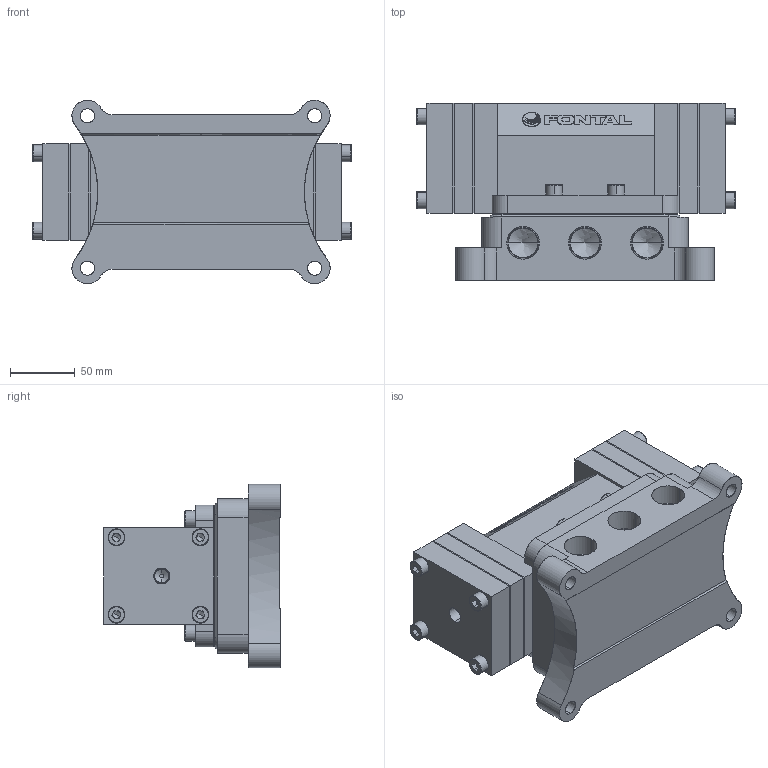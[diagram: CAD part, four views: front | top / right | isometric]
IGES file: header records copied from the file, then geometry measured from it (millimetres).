
Start section: SolidWorks IGES file using analytic representation for surfaces
Global section: file name: D:\Custom\3D繪製\VM\VM25\VMD3425-06.IGS,1; native system: 5HSolidWorks 2014; preprocessor: SolidWorks 2014; author: Chieh_Lu; date: 160114.023603; units: millimetre
Bounding box: 247 x 137 x 142 mm (x, y, z)
Surface area: 332571.8 mm2 (no closed solid volume)
Topology: 0 solids, 0 shells, 624 faces, 7144 edges, 7110 vertices
Faces by surface type: bspline 407, revolution 217
